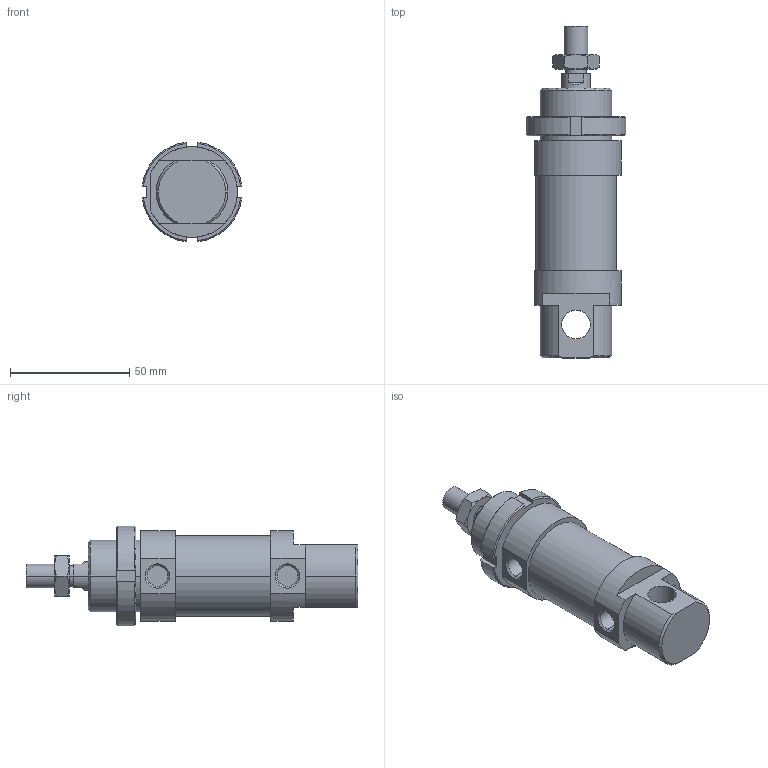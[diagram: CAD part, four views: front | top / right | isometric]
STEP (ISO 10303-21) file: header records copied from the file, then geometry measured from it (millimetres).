
FILE_DESCRIPTION((''),'2;1');
FILE_NAME('I:\DOC-EDP\Lib-3d\1200\CILINDRI\1280\1280_32_0000.stp','2003-04-07T19:05:54',('maffial1'),(''),'Autodesk Inventor (R) 6.0','Autodesk Inventor (R) 6.0','');
FILE_SCHEMA(('AUTOMOTIVE_DESIGN { 1 0 10303 214 1 1 1 1 }'));
Length unit declared in the file: millimetre
Products named in the file (5): 1280_32_0000; S1280_32_0; 1200_32_05; 1200_32_06; C1280_32_0
Assembly tree (4 placements, depth 2):
  1280_32_0000
    S1280_32_0
    1200_32_05
    1200_32_06
    C1280_32_0
Bounding box: 41.7 x 139 x 41.7 mm (x, y, z)
Volume: 101692.7 mm3; surface area: 23496.9 mm2
Topology: 4 solids, 4 shells, 122 faces, 286 edges, 180 vertices
Faces by surface type: plane 44, cone 32, cylinder 26, bspline 20
Entity records: 3831 total; most frequent: CARTESIAN_POINT 997, DIRECTION 582, ORIENTED_EDGE 572, EDGE_CURVE 286, AXIS2_PLACEMENT_3D 229, VERTEX_POINT 180, EDGE_LOOP 136, VECTOR 124
